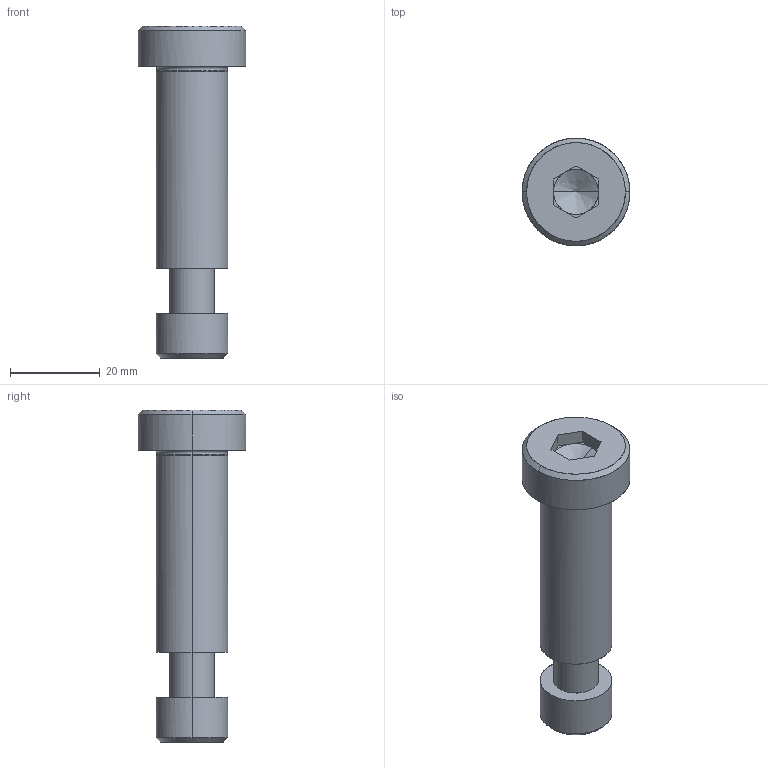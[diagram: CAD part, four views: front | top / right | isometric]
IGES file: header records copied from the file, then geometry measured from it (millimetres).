
Global section: file name: E:\UnigraphicsGraphicData\MISUMI_PRESS-PARTS\IGES\3d_sbtc16-45_05117_r00.igs; native system: NX V5.0; preprocessor: UGS NX IGES V5.0; author: MISUMI; date: 20110105.162447; units: millimetre
Bounding box: 24 x 24 x 74 mm (x, y, z)
Surface area: 6544.9 mm2 (no closed solid volume)
Topology: 0 solids, 0 shells, 52 faces, 286 edges, 282 vertices
Faces by surface type: bspline 52
